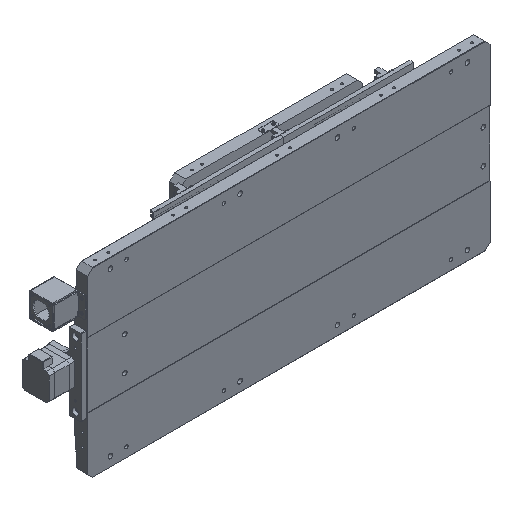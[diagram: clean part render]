
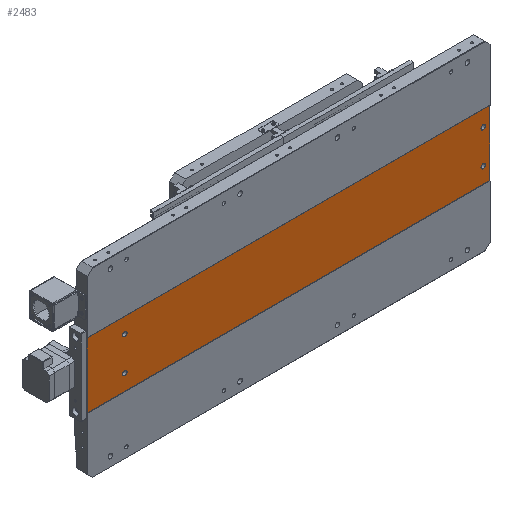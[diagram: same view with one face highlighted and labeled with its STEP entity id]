
A CAD part, isometric view. The second image highlights one B-rep face of the part: STEP entity #2483.
In plain terms, the highlighted planar face has unit normal (0, -1, 0).
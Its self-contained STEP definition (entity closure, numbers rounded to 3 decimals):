
#84 = DIRECTION ( 'NONE',  ( 0., 0., -1. ) ) ;
#578 = VERTEX_POINT ( 'NONE', #22969 ) ;
#1989 = CARTESIAN_POINT ( 'NONE',  ( 300., -9.5, -26. ) ) ;
#2483 = ADVANCED_FACE ( 'NONE', ( #17021, #24403, #17910, #6764, #31345 ), #20373, .T. ) ;
#2711 = DIRECTION ( 'NONE',  ( 0., 1., 0. ) ) ;
#2954 = VERTEX_POINT ( 'NONE', #27878 ) ;
#3117 = DIRECTION ( 'NONE',  ( 0., 1., 0. ) ) ;
#3986 = EDGE_LOOP ( 'NONE', ( #30217 ) ) ;
#5275 = VECTOR ( 'NONE', #5826, 1000. ) ;
#5482 = DIRECTION ( 'NONE',  ( 0., 0., 1. ) ) ;
#5826 = DIRECTION ( 'NONE',  ( 0., 0., -1. ) ) ;
#5830 = AXIS2_PLACEMENT_3D ( 'NONE', #6457, #3117, #12932 ) ;
#6033 = LINE ( 'NONE', #10035, #39738 ) ;
#6457 = CARTESIAN_POINT ( 'NONE',  ( 300., -9.5, 26. ) ) ;
#6764 = FACE_BOUND ( 'NONE', #25162, .T. ) ;
#8294 = EDGE_CURVE ( 'NONE', #2954, #578, #11066, .T. ) ;
#9017 = ORIENTED_EDGE ( 'NONE', *, *, #35076, .T. ) ;
#9186 = LINE ( 'NONE', #22787, #5275 ) ;
#9536 = ORIENTED_EDGE ( 'NONE', *, *, #34140, .T. ) ;
#10035 = CARTESIAN_POINT ( 'NONE',  ( 310., -9.5, -50. ) ) ;
#10172 = AXIS2_PLACEMENT_3D ( 'NONE', #38412, #12024, #39309 ) ;
#10223 = EDGE_CURVE ( 'NONE', #16252, #26118, #9186, .T. ) ;
#10373 = EDGE_CURVE ( 'NONE', #26118, #2954, #6033, .T. ) ;
#10628 = EDGE_CURVE ( 'NONE', #30190, #30190, #18144, .T. ) ;
#10738 = EDGE_CURVE ( 'NONE', #578, #16252, #17283, .T. ) ;
#11066 = LINE ( 'NONE', #24682, #15096 ) ;
#11302 = CARTESIAN_POINT ( 'NONE',  ( -310., -9.5, -50. ) ) ;
#12024 = DIRECTION ( 'NONE',  ( 0., 1., 0. ) ) ;
#12332 = EDGE_LOOP ( 'NONE', ( #32978 ) ) ;
#12932 = DIRECTION ( 'NONE',  ( 0., 0., -1. ) ) ;
#13362 = DIRECTION ( 'NONE',  ( 1., 0., 0. ) ) ;
#15010 = EDGE_LOOP ( 'NONE', ( #37816, #41481, #38675, #25455 ) ) ;
#15096 = VECTOR ( 'NONE', #5482, 1000. ) ;
#16252 = VERTEX_POINT ( 'NONE', #20960 ) ;
#16302 = DIRECTION ( 'NONE',  ( 0., 0., -1. ) ) ;
#16625 = AXIS2_PLACEMENT_3D ( 'NONE', #33312, #2711, #16302 ) ;
#16934 = VERTEX_POINT ( 'NONE', #43994 ) ;
#17021 = FACE_OUTER_BOUND ( 'NONE', #15010, .T. ) ;
#17283 = LINE ( 'NONE', #17499, #27501 ) ;
#17499 = CARTESIAN_POINT ( 'NONE',  ( 310., -9.5, 50. ) ) ;
#17910 = FACE_BOUND ( 'NONE', #23529, .T. ) ;
#18144 = CIRCLE ( 'NONE', #43155, 3.4 ) ;
#20373 = PLANE ( 'NONE',  #34988 ) ;
#20960 = CARTESIAN_POINT ( 'NONE',  ( -310., -9.5, 50. ) ) ;
#22787 = CARTESIAN_POINT ( 'NONE',  ( -310., -9.5, -50. ) ) ;
#22969 = CARTESIAN_POINT ( 'NONE',  ( 310., -9.5, 50. ) ) ;
#23529 = EDGE_LOOP ( 'NONE', ( #9536 ) ) ;
#23947 = CARTESIAN_POINT ( 'NONE',  ( 0., -9.5, 0. ) ) ;
#23970 = CARTESIAN_POINT ( 'NONE',  ( 300., -9.5, 22.6 ) ) ;
#24218 = DIRECTION ( 'NONE',  ( -1., 0., 0. ) ) ;
#24403 = FACE_BOUND ( 'NONE', #3986, .T. ) ;
#24682 = CARTESIAN_POINT ( 'NONE',  ( 310., -9.5, -50. ) ) ;
#25155 = CIRCLE ( 'NONE', #10172, 3.4 ) ;
#25162 = EDGE_LOOP ( 'NONE', ( #9017 ) ) ;
#25455 = ORIENTED_EDGE ( 'NONE', *, *, #10738, .T. ) ;
#26118 = VERTEX_POINT ( 'NONE', #11302 ) ;
#26363 = VERTEX_POINT ( 'NONE', #36441 ) ;
#27366 = CIRCLE ( 'NONE', #16625, 3.4 ) ;
#27501 = VECTOR ( 'NONE', #24218, 1000. ) ;
#27878 = CARTESIAN_POINT ( 'NONE',  ( 310., -9.5, -50. ) ) ;
#29229 = DIRECTION ( 'NONE',  ( 0., 0., -1. ) ) ;
#30190 = VERTEX_POINT ( 'NONE', #43833 ) ;
#30217 = ORIENTED_EDGE ( 'NONE', *, *, #10628, .T. ) ;
#31228 = EDGE_CURVE ( 'NONE', #34284, #34284, #40778, .T. ) ;
#31345 = FACE_BOUND ( 'NONE', #12332, .T. ) ;
#32978 = ORIENTED_EDGE ( 'NONE', *, *, #31228, .T. ) ;
#33312 = CARTESIAN_POINT ( 'NONE',  ( -252., -9.5, 26. ) ) ;
#34140 = EDGE_CURVE ( 'NONE', #26363, #26363, #25155, .T. ) ;
#34284 = VERTEX_POINT ( 'NONE', #23970 ) ;
#34988 = AXIS2_PLACEMENT_3D ( 'NONE', #23947, #41631, #84 ) ;
#35076 = EDGE_CURVE ( 'NONE', #16934, #16934, #27366, .T. ) ;
#36441 = CARTESIAN_POINT ( 'NONE',  ( -252., -9.5, -29.4 ) ) ;
#37816 = ORIENTED_EDGE ( 'NONE', *, *, #10223, .T. ) ;
#38412 = CARTESIAN_POINT ( 'NONE',  ( -252., -9.5, -26. ) ) ;
#38675 = ORIENTED_EDGE ( 'NONE', *, *, #8294, .T. ) ;
#39309 = DIRECTION ( 'NONE',  ( 0., 0., -1. ) ) ;
#39738 = VECTOR ( 'NONE', #13362, 1000. ) ;
#40778 = CIRCLE ( 'NONE', #5830, 3.4 ) ;
#41481 = ORIENTED_EDGE ( 'NONE', *, *, #10373, .T. ) ;
#41631 = DIRECTION ( 'NONE',  ( 0., -1., 0. ) ) ;
#42427 = DIRECTION ( 'NONE',  ( 0., 1., 0. ) ) ;
#43155 = AXIS2_PLACEMENT_3D ( 'NONE', #1989, #42427, #29229 ) ;
#43833 = CARTESIAN_POINT ( 'NONE',  ( 300., -9.5, -29.4 ) ) ;
#43994 = CARTESIAN_POINT ( 'NONE',  ( -252., -9.5, 22.6 ) ) ;
